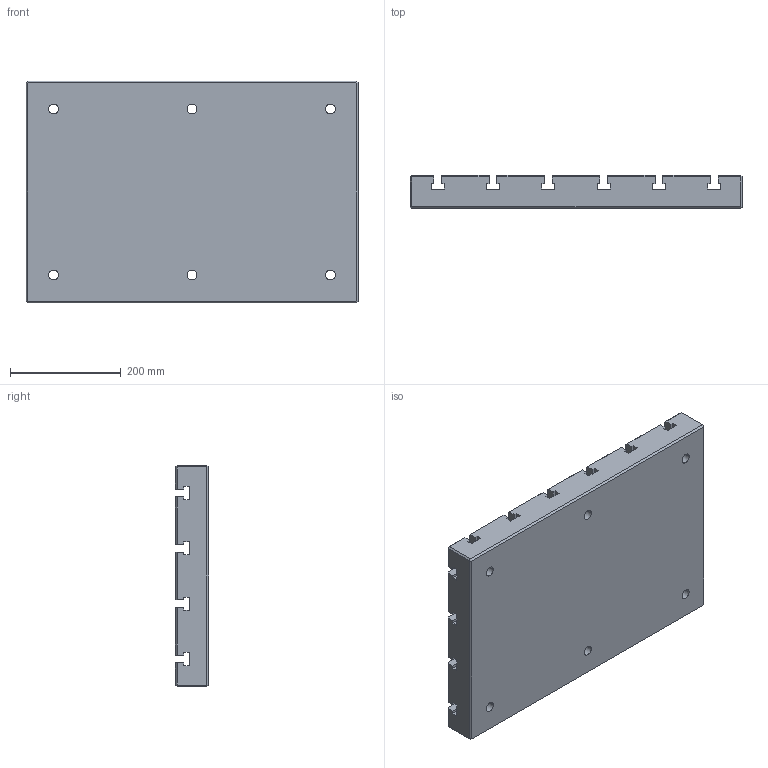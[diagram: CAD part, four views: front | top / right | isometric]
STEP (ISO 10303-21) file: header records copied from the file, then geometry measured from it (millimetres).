
FILE_DESCRIPTION((''),'2;1');
FILE_NAME('FG_WH_BASPL_RCTSLNP001','2026-05-17T10:41:32',('Admin'),(''),'CREO PARAMETRIC BY PTC INC, 2025010','CREO PARAMETRIC BY PTC INC, 2025010','');
FILE_SCHEMA(('CONFIG_CONTROL_DESIGN'));
Length unit declared in the file: millimetre
Products named in the file (1): FG_WH_BASPL_RCTSLNP001
Bounding box: 600 x 60 x 400 mm (x, y, z)
Volume: 12340656.6 mm3; surface area: 868585.1 mm2
Topology: 1 solids, 1 shells, 404 faces, 1100 edges, 728 vertices
Faces by surface type: plane 364, cylinder 40
Entity records: 12614 total; most frequent: CARTESIAN_POINT 2232, ORIENTED_EDGE 2200, DIRECTION 2004, EDGE_CURVE 1100, VECTOR 1004, LINE 1004, VERTEX_POINT 728, AXIS2_PLACEMENT_3D 500
